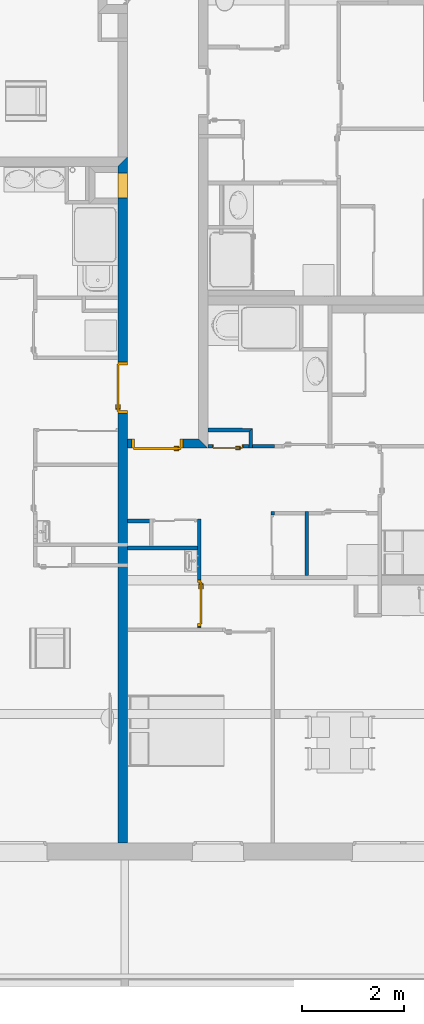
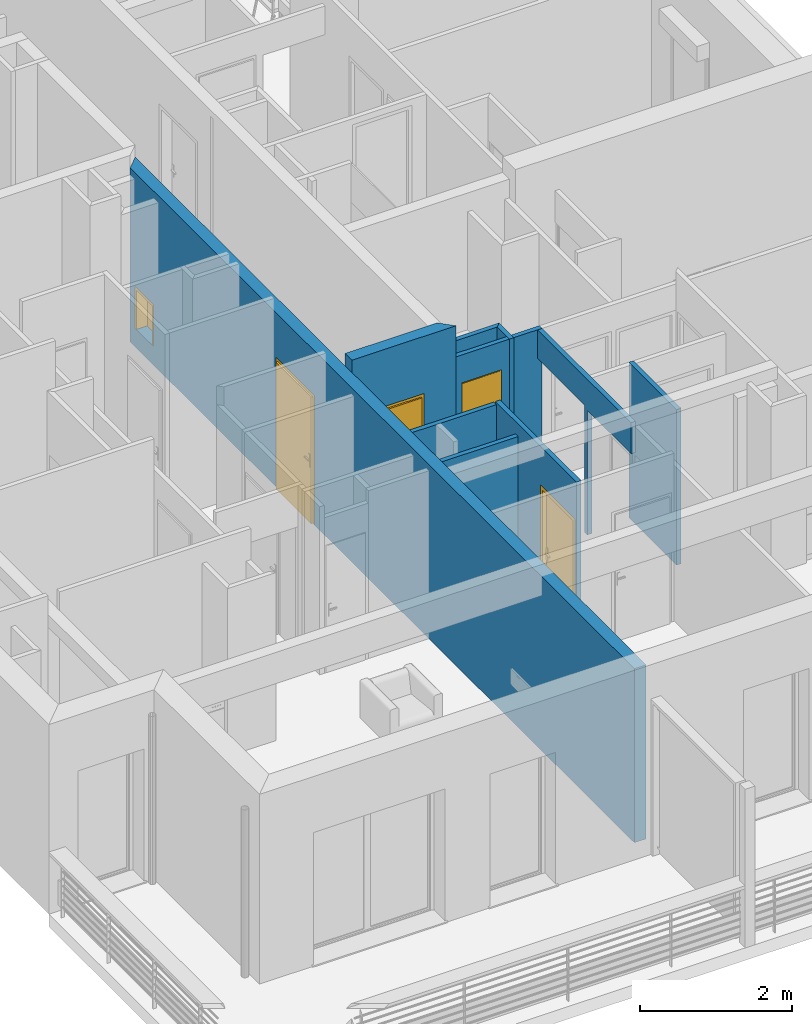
# One storey, part 13 of 165: 10 walls, 5 doors, 8 openings.
"""IFC2X3 building model written with IfcOpenShell, lengths in millimetres."""

from ifc_helpers import new_model, entity, si_unit, converted_unit, derived_unit, money_unit, direction, frame, origin_with_axes, origin_2d_with_axis, place, context, subcontext, project, spatial, polyline, rectangle, outline, extrude, faceted_brep, source, transform, mapped, material, layer, layer_set, layer_usage, type_object, element, fill, save


model = new_model("IFC2X3")

# Units and contexts
model_context = context("Model", 3, precision=0.01, world=origin_with_axes(), true_north=direction((0.0, 1.0)))
body_context = subcontext(model_context, "Body", "Model", "MODEL_VIEW")
ifc_project = project(units=[si_unit("LENGTHUNIT", "METRE", prefix="MILLI"), si_unit("AREAUNIT", "SQUARE_METRE"), si_unit("VOLUMEUNIT", "CUBIC_METRE"), converted_unit("PLANEANGLEUNIT", "DEGREE", entity("IfcPlaneAngleMeasure", 0.0174532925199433), si_unit("PLANEANGLEUNIT", "RADIAN"), dimensions=[0, 0, 0, 0, 0, 0, 0]), money_unit("USD"), converted_unit("TIMEUNIT", "Year", entity("IfcTimeMeasure", 31557600.0), si_unit("TIMEUNIT", "SECOND"), dimensions=[0, 0, 1, 0, 0, 0, 0]), si_unit("MASSUNIT", "GRAM", prefix="KILO"), si_unit("THERMODYNAMICTEMPERATUREUNIT", "DEGREE_CELSIUS"), si_unit("LUMINOUSINTENSITYUNIT", "LUMEN"), si_unit("ENERGYUNIT", "JOULE", prefix="MEGA"), derived_unit("THERMALCONDUCTANCEUNIT", [(si_unit("POWERUNIT", "WATT"), 1), (si_unit("LENGTHUNIT", "METRE"), -1), (si_unit("THERMODYNAMICTEMPERATUREUNIT", "KELVIN"), -1)]), derived_unit("SPECIFICHEATCAPACITYUNIT", [(si_unit("ENERGYUNIT", "JOULE"), 1), (si_unit("MASSUNIT", "GRAM", prefix="KILO"), -1), (si_unit("THERMODYNAMICTEMPERATUREUNIT", "KELVIN"), -1)]), derived_unit("MASSDENSITYUNIT", [(si_unit("MASSUNIT", "GRAM", prefix="KILO"), 1), (si_unit("VOLUMEUNIT", "CUBIC_METRE"), -1)])], contexts=[model_context])

# Site, building, storey
site_placement = place(None, origin_with_axes())
site = spatial("IfcSite", under=ifc_project, at=site_placement, Name="Site", CompositionType="ELEMENT")
building_placement = place(site_placement, origin_with_axes())
building = spatial("IfcBuilding", under=site, at=building_placement, Name="Bâtiment", CompositionType="ELEMENT")
storey_placement = place(building_placement, frame((0.0, 0.0, 8500.0), z_axis=(0.0, 0.0, 1.0), x_axis=(1.0, 0.0, 0.0)))
storey = spatial("IfcBuildingStorey", under=building, at=storey_placement, Name="Etage 2", CompositionType="ELEMENT", Elevation=8500.0)

# Wall, opening, door
ifc_material_1 = material(Name="Parpaing 314940890")
ifc_layer_1 = layer(ifc_material_1, 180.0, ventilated="UNKNOWN")
ifc_layer_set_1 = layer_set([ifc_layer_1], Name="Beton  18 0018356637")
ifc_layer_usage_1 = layer_usage(ifc_layer_set_1, "AXIS2", "NEGATIVE", 0.0)
wall_type_1 = type_object("IfcWallType", Name="Beton  18 0018356637 180", PredefinedType="NOTDEFINED")
wall_1_placement = place(storey_placement, frame((2224312.318363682, -649549.5926358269, 0.0), z_axis=(0.0, 0.0, 1.0), x_axis=(1.0, 0.0, 0.0)))
wall_1 = element("IfcWallStandardCase", 1, at=wall_1_placement, inside=storey, type_object=wall_type_1, material=ifc_layer_usage_1, Name="Mur-142", context=body_context, shape_type="SweptSolid", body=[
    extrude(outline(polyline([(-6.972868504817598e-06, -180.0000000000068), (1579.999993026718, -180.0000000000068), (1399.999993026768, 0.0), (-6.972868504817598e-06, 0.0), (-6.972868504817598e-06, -180.0000000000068)])), origin_with_axes(), (0.0, 0.0, 1.0), 3000.0),
])
opening_1_placement = place(wall_1_placement, frame((587.6093095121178, 0.0, 0.0), z_axis=(0.0, 0.0, 1.0), x_axis=(1.0, 0.0, 0.0)))
opening_1 = element("IfcOpeningElement", 2, at=opening_1_placement, cuts=wall_1, Name="Por-299", context=body_context, shape_type="SweptSolid", body=[
    extrude(rectangle(XDim=1010.00001192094, YDim=2080.0, at=origin_2d_with_axis()), frame((-5.960487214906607e-06, 180.0000000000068, 1039.999999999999), z_axis=(0.0, -1.0, 0.0), x_axis=(-1.0, 0.0, 0.0)), (0.0, 0.0, 1.0), 360.0),
])
door_style = type_object("IfcDoorStyle", Name="Porte_1v", ConstructionType="NOTDEFINED", OperationType="NOTDEFINED", ParameterTakesPrecedence=False, Sizeable=False)
shared_shape_1 = source(origin_with_axes(), body_context, "Body", "Brep", [
    faceted_brep([(504.9999999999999, 0.0, 0.0), (464.9999999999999, 0.0, 0.0), (464.9999999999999, 0.0, 2040.0), (-464.9999999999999, 0.0, 2040.0), (-464.9999999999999, 0.0, 0.0), (-504.9999999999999, 0.0, 0.0), (-504.9999999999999, 0.0, 2080.0), (504.9999999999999, 0.0, 2080.0), (504.9999999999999, -180.0, 0.0), (449.9999999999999, -180.0, 0.0), (449.9999999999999, -15.0, 0.0), (464.9999999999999, -15.0, 0.0), (464.9999999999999, -15.0, 2040.0), (-464.9999999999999, -15.0, 2040.0), (-464.9999999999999, -15.0, 0.0), (-449.9999999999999, -15.0, 0.0), (-449.9999999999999, -180.0, 0.0), (-504.9999999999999, -180.0, 0.0), (-504.9999999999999, -180.0, 2080.0), (504.9999999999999, -180.0, 2080.0), (-449.9999999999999, -180.0, 2025.0), (449.9999999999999, -180.0, 2025.0), (449.9999999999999, -15.0, 2025.0), (-449.9999999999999, -15.0, 2025.0)], [[[0, 1, 2, 3, 4, 5, 6, 7]], [[0, 8, 9, 10, 11, 1]], [[1, 11, 12, 2]], [[2, 12, 13, 3]], [[3, 13, 14, 4]], [[5, 4, 14, 15, 16, 17]], [[18, 6, 5, 17]], [[19, 7, 6, 18]], [[8, 0, 7, 19]], [[9, 8, 19, 18, 17, 16, 20, 21]], [[10, 9, 21, 22]], [[11, 10, 22, 23, 15, 14, 13, 12]], [[23, 20, 16, 15]], [[22, 21, 20, 23]]]),
    faceted_brep([(-399.9999999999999, -15.0, 900.0), (-439.9999999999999, -15.0, 900.0), (-439.9999999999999, -15.0, 1100.0), (-399.9999999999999, -15.0, 1100.0), (-399.9999999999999, -25.0, 900.0), (-439.9999999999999, -25.0, 900.0), (-439.9999999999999, -25.0, 1100.0), (-399.9999999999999, -25.0, 1100.0)], [[[0, 1, 2, 3]], [[1, 0, 4, 5]], [[2, 1, 5, 6]], [[3, 2, 6, 7]], [[0, 3, 7, 4]], [[5, 4, 7, 6]]]),
    faceted_brep([(-329.9999999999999, -25.0, 1000.0), (-429.9999999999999, -25.0, 1000.0), (-429.9999999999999, -25.0, 1020.0), (-329.9999999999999, -25.0, 1020.0), (-329.9999999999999, -44.99999999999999, 1000.0), (-429.9999999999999, -44.99999999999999, 1000.0), (-429.9999999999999, -44.99999999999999, 1020.0), (-329.9999999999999, -44.99999999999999, 1020.0)], [[[0, 1, 2, 3]], [[1, 0, 4, 5]], [[2, 1, 5, 6]], [[3, 2, 6, 7]], [[0, 3, 7, 4]], [[5, 4, 7, 6]]]),
    faceted_brep([(-399.9999999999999, 34.99999999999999, 900.0), (-439.9999999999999, 34.99999999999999, 900.0), (-439.9999999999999, 34.99999999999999, 1100.0), (-399.9999999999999, 34.99999999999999, 1100.0), (-399.9999999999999, 25.0, 900.0), (-439.9999999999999, 25.0, 900.0), (-439.9999999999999, 25.0, 1100.0), (-399.9999999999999, 25.0, 1100.0)], [[[0, 1, 2, 3]], [[1, 0, 4, 5]], [[2, 1, 5, 6]], [[3, 2, 6, 7]], [[0, 3, 7, 4]], [[5, 4, 7, 6]]]),
    faceted_brep([(-329.9999999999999, 55.0, 1000.0), (-429.9999999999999, 55.0, 1000.0), (-429.9999999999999, 55.0, 1020.0), (-329.9999999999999, 55.0, 1020.0), (-329.9999999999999, 34.99999999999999, 1000.0), (-429.9999999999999, 34.99999999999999, 1000.0), (-429.9999999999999, 34.99999999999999, 1020.0), (-329.9999999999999, 34.99999999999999, 1020.0)], [[[0, 1, 2, 3]], [[1, 0, 4, 5]], [[2, 1, 5, 6]], [[3, 2, 6, 7]], [[0, 3, 7, 4]], [[5, 4, 7, 6]]]),
    faceted_brep([(-464.9999999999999, 25.0, 0.0), (464.9999999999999, 25.0, 0.0), (464.9999999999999, -15.0, 0.0), (-464.9999999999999, -15.0, 0.0), (-464.9999999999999, 25.0, 2040.0), (464.9999999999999, 25.0, 2040.0), (464.9999999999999, -15.0, 2040.0), (-464.9999999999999, -15.0, 2040.0)], [[[0, 1, 2, 3]], [[0, 4, 5, 1]], [[1, 5, 6, 2]], [[3, 2, 6, 7]], [[4, 0, 3, 7]], [[5, 4, 7, 6]]]),
])
door_1_placement = place(opening_1_placement, frame((465.0000000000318, 0.0, 0.0), z_axis=(0.0, 0.0, 1.0), x_axis=(-1.0, 0.0, 0.0)))
door_1 = element("IfcDoor", 3, at=door_1_placement, inside=storey, type_object=door_style, Name="Por-299", OverallHeight=2040.0, OverallWidth=930.0, context=body_context, shape_type="MappedRepresentation", body=[
    mapped(shared_shape_1, transform((465.0000000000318, 180.0000000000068, 0.0))),
])
fill(opening_1, door_1)

# Wall, openings, doors
ifc_layer_usage_2 = layer_usage(ifc_layer_set_1, "AXIS2", "NEGATIVE", 0.0)
wall_2_placement = place(storey_placement, frame((2224312.31835671, -644016.3764063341, 0.0), z_axis=(0.0, 0.0, 1.0), x_axis=(0.0, -1.0, 0.0)))
wall_2 = element("IfcWallStandardCase", 4, at=wall_2_placement, inside=storey, type_object=wall_type_1, material=ifc_layer_usage_2, Name="Mur-143", context=body_context, shape_type="SweptSolid", body=[
    extrude(outline(polyline([(180.0000034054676, -179.99999999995), (13461.9466706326, -179.99999999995), (13461.9466706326, 0.0), (0.0, 0.0), (180.0000034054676, -179.99999999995)])), origin_with_axes(), (0.0, 0.0, 1.0), 2800.0),
])
opening_2_placement = place(wall_2_placement, frame((4527.152454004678, -1.13686837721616e-10, 0.0), z_axis=(0.0, 0.0, 1.0), x_axis=(1.0, 0.0, 0.0)))
opening_2 = element("IfcOpeningElement", 5, at=opening_2_placement, cuts=wall_2, Name="Por-299", context=body_context, shape_type="SweptSolid", body=[
    extrude(rectangle(XDim=1010.00001192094, YDim=2080.0, at=origin_2d_with_axis()), frame((-5.960473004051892e-06, 179.99999999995, 1039.999999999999), z_axis=(0.0, -1.0, 0.0), x_axis=(-1.0, 0.0, 0.0)), (0.0, 0.0, 1.0), 360.0),
])
opening_3_placement = place(wall_2_placement, frame((553.9436931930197, -1.13686837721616e-10, 300.0000000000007), z_axis=(0.0, 0.0, 1.0), x_axis=(1.0, 0.0, 0.0)))
opening_3 = element("IfcOpeningElement", 6, at=opening_3_placement, cuts=wall_2, Name="Por-232", context=body_context, shape_type="SweptSolid", body=[
    extrude(rectangle(XDim=489.9999985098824, YDim=669.9999999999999, at=origin_2d_with_axis()), frame((-7.450609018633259e-07, -179.99999999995, 335.0000000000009), z_axis=(0.0, 1.0, 0.0), x_axis=(1.0, 0.0, 0.0)), (0.0, 0.0, 1.0), 360.0),
])
door_2_placement = place(opening_2_placement, frame((465.000000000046, -1.13686837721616e-10, 0.0), z_axis=(0.0, 0.0, 1.0), x_axis=(-1.0, 0.0, 0.0)))
door_2 = element("IfcDoor", 7, at=door_2_placement, inside=storey, type_object=door_style, Name="Por-299", OverallHeight=2040.0, OverallWidth=930.0, context=body_context, shape_type="MappedRepresentation", body=[
    mapped(shared_shape_1, transform((465.0000000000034, 179.99999999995, 0.0))),
])
fill(opening_2, door_2)
shared_shape_2 = source(origin_with_axes(), body_context, "Body", "Brep", [
    faceted_brep([(245.0, 0.0, 0.0), (225.0, 0.0, 0.0), (225.0, 0.0, 650.0), (-225.0, 0.0, 650.0), (-225.0, 0.0, 0.0), (-245.0, 0.0, 0.0), (-245.0, 0.0, 670.0), (245.0, 0.0, 670.0), (245.0, -180.0, 0.0), (210.0, -180.0, 0.0), (210.0, -15.0, 0.0), (225.0, -15.0, 0.0), (225.0, -15.0, 650.0), (-225.0, -15.0, 650.0), (-225.0, -15.0, 0.0), (-210.0, -15.0, 0.0), (-210.0, -180.0, 0.0), (-245.0, -180.0, 0.0), (-245.0, -180.0, 670.0), (245.0, -180.0, 670.0), (-210.0, -180.0, 635.0), (210.0, -180.0, 635.0), (210.0, -15.0, 635.0), (-210.0, -15.0, 635.0)], [[[0, 1, 2, 3, 4, 5, 6, 7]], [[0, 8, 9, 10, 11, 1]], [[1, 11, 12, 2]], [[2, 12, 13, 3]], [[3, 13, 14, 4]], [[5, 4, 14, 15, 16, 17]], [[18, 6, 5, 17]], [[19, 7, 6, 18]], [[8, 0, 7, 19]], [[9, 8, 19, 18, 17, 16, 20, 21]], [[10, 9, 21, 22]], [[11, 10, 22, 23, 15, 14, 13, 12]], [[23, 20, 16, 15]], [[22, 21, 20, 23]]]),
    faceted_brep([(-225.0, 5.000000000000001, 0.0), (225.0, 5.000000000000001, 0.0), (225.0, -15.0, 0.0), (-225.0, -15.0, 0.0), (-225.0, 5.000000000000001, 650.0), (225.0, 5.000000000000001, 650.0), (225.0, -15.0, 650.0), (-225.0, -15.0, 650.0)], [[[0, 1, 2, 3]], [[0, 4, 5, 1]], [[1, 5, 6, 2]], [[3, 2, 6, 7]], [[4, 0, 3, 7]], [[5, 4, 7, 6]]]),
])
door_3_placement = place(opening_3_placement, frame((-224.9999999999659, -1.13686837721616e-10, 0.0), z_axis=(0.0, 0.0, 1.0), x_axis=(1.0, 0.0, 0.0)))
door_3 = element("IfcDoor", 8, at=door_3_placement, inside=storey, type_object=door_style, Name="Por-232", OverallHeight=650.0, OverallWidth=450.0, context=body_context, shape_type="MappedRepresentation", body=[
    mapped(shared_shape_2, transform((224.9999999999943, 0.0, 0.0))),
])
fill(opening_3, door_3)

# Walls
ifc_material_2 = material(Name="Hachure solide 268963992")
ifc_layer_2 = layer(ifc_material_2, 70.0, ventilated="UNKNOWN")
ifc_layer_set_2 = layer_set([ifc_layer_2], Name="Cloison 70 0826278243")
ifc_layer_usage_3 = layer_usage(ifc_layer_set_2, "AXIS2", "POSITIVE", -70.0)
wall_type_2 = type_object("IfcWallType", Name="Cloison 70 0826278243 70", PredefinedType="NOTDEFINED")
wall_3_placement = place(storey_placement, frame((2226774.70320047, -649338.8810564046, 0.0), z_axis=(0.0, 0.0, 1.0), x_axis=(-0.0006471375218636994, -0.999999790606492, 0.0)))
element("IfcWallStandardCase", 9, at=wall_3_placement, inside=storey, type_object=wall_type_2, material=ifc_layer_usage_3, Name="Mur-149", context=body_context, shape_type="SweptSolid", body=[
    extrude(outline(polyline([(70.00000436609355, -70.00000000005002), (391.2824669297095, -69.99999999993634), (391.2824669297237, 0.0), (0.0, 0.0), (70.00000436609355, -70.00000000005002)])), origin_with_axes(), (0.0, 0.0, 1.0), 2500.0),
])
ifc_layer_usage_4 = layer_usage(ifc_layer_set_2, "AXIS2", "NEGATIVE", 70.0)
wall_4_placement = place(storey_placement, frame((2224312.31835671, -651724.6231453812, 0.0), z_axis=(0.0, 0.0, 1.0), x_axis=(1.0, 0.0, 0.0)))
element("IfcWallStandardCase", 10, at=wall_4_placement, inside=storey, type_object=wall_type_2, material=ifc_layer_usage_4, Name="Mur-149", context=body_context, shape_type="SweptSolid", body=[
    extrude(outline(polyline([(0.0, 0.0), (1374.504614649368, 0.0), (1374.504614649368, 69.99999999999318), (0.0, 69.99999999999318), (0.0, 0.0)])), origin_with_axes(), (0.0, 0.0, 1.0), 2500.0),
])
ifc_layer_usage_5 = layer_usage(ifc_layer_set_2, "AXIS2", "POSITIVE", -70.0)
wall_5_placement = place(storey_placement, frame((2225892.31835671, -649338.3100869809, 0.0), z_axis=(0.0, 0.0, 1.0), x_axis=(0.999999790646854, -0.0006470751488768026, 0.0)))
element("IfcWallStandardCase", 11, at=wall_5_placement, inside=storey, type_object=wall_type_2, material=ifc_layer_usage_5, Name="Mur-149", context=body_context, shape_type="SweptSolid", body=[
    extrude(outline(polyline([(1.13686837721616e-10, -69.99999999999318), (812.3850241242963, -69.99999999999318), (882.3850284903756, 0.0), (0.0, 0.0), (1.13686837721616e-10, -69.99999999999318)])), origin_with_axes(), (0.0, 0.0, 1.0), 2500.0),
])

# Wall, opening, door
ifc_layer_usage_6 = layer_usage(ifc_layer_set_2, "AXIS2", "NEGATIVE", 70.0)
wall_6_placement = place(storey_placement, frame((2225892.318356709, -649729.592635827, 0.0), z_axis=(0.0, 0.0, 1.0), x_axis=(1.0, 0.0, 0.0)))
wall_6 = element("IfcWallStandardCase", 12, at=wall_6_placement, inside=storey, type_object=wall_type_2, material=ifc_layer_usage_6, Name="Mur-149", context=body_context, shape_type="SweptSolid", body=[
    extrude(outline(polyline([(0.0, 0.0), (1310.012145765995, 0.0), (1310.012145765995, 69.99999999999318), (0.0, 69.99999999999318), (0.0, 0.0)])), origin_with_axes(), (0.0, 0.0, 1.0), 2500.0),
])
opening_4_placement = place(wall_6_placement, frame((389.9479966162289, 0.0, 0.0), z_axis=(0.0, 0.0, 1.0), x_axis=(1.0, 0.0, 0.0)))
opening_4 = element("IfcOpeningElement", 13, at=opening_4_placement, cuts=wall_6, Name="Por-274", context=body_context, shape_type="SweptSolid", body=[
    extrude(rectangle(XDim=600.0000000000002, YDim=2050.000000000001, at=origin_2d_with_axis()), frame((0.0, 69.99999999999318, 1025.0), z_axis=(0.0, -1.0, 0.0), x_axis=(-1.0, 0.0, 0.0)), (0.0, 0.0, 1.0), 140.0),
])
shared_shape_3 = source(origin_with_axes(), body_context, "Body", "Brep", [
    faceted_brep([(300.0, 0.0, 0.0), (290.0, 0.0, 0.0), (290.0, 0.0, 2040.0), (-290.0, 0.0, 2040.0), (-290.0, 0.0, 0.0), (-300.0, 0.0, 0.0), (-300.0, 0.0, 2050.0), (300.0, 0.0, 2050.0), (300.0, -70.0, 0.0), (279.9999999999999, -70.0, 0.0), (279.9999999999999, -15.0, 0.0), (290.0, -15.0, 0.0), (290.0, -15.0, 2040.0), (-290.0, -15.0, 2040.0), (-290.0, -15.0, 0.0), (-279.9999999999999, -15.0, 0.0), (-279.9999999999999, -70.0, 0.0), (-300.0, -70.0, 0.0), (-300.0, -70.0, 2050.0), (300.0, -70.0, 2050.0), (-279.9999999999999, -70.0, 2030.0), (279.9999999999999, -70.0, 2030.0), (279.9999999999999, -15.0, 2030.0), (-279.9999999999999, -15.0, 2030.0)], [[[0, 1, 2, 3, 4, 5, 6, 7]], [[0, 8, 9, 10, 11, 1]], [[1, 11, 12, 2]], [[2, 12, 13, 3]], [[3, 13, 14, 4]], [[5, 4, 14, 15, 16, 17]], [[18, 6, 5, 17]], [[19, 7, 6, 18]], [[8, 0, 7, 19]], [[9, 8, 19, 18, 17, 16, 20, 21]], [[10, 9, 21, 22]], [[11, 10, 22, 23, 15, 14, 13, 12]], [[23, 20, 16, 15]], [[22, 21, 20, 23]]]),
    faceted_brep([(-224.9999999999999, -15.0, 900.0), (-264.9999999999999, -15.0, 900.0), (-264.9999999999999, -15.0, 1100.0), (-224.9999999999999, -15.0, 1100.0), (-224.9999999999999, -25.0, 900.0), (-264.9999999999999, -25.0, 900.0), (-264.9999999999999, -25.0, 1100.0), (-224.9999999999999, -25.0, 1100.0)], [[[0, 1, 2, 3]], [[1, 0, 4, 5]], [[2, 1, 5, 6]], [[3, 2, 6, 7]], [[0, 3, 7, 4]], [[5, 4, 7, 6]]]),
    faceted_brep([(-154.9999999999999, -25.0, 1000.0), (-254.9999999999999, -25.0, 1000.0), (-254.9999999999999, -25.0, 1020.0), (-154.9999999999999, -25.0, 1020.0), (-154.9999999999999, -45.0, 1000.0), (-254.9999999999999, -45.0, 1000.0), (-254.9999999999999, -45.0, 1020.0), (-154.9999999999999, -45.0, 1020.0)], [[[0, 1, 2, 3]], [[1, 0, 4, 5]], [[2, 1, 5, 6]], [[3, 2, 6, 7]], [[0, 3, 7, 4]], [[5, 4, 7, 6]]]),
    faceted_brep([(-224.9999999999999, 15.0, 900.0), (-264.9999999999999, 15.0, 900.0), (-264.9999999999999, 15.0, 1100.0), (-224.9999999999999, 15.0, 1100.0), (-224.9999999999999, 5.000000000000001, 900.0), (-264.9999999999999, 5.000000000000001, 900.0), (-264.9999999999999, 5.000000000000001, 1100.0), (-224.9999999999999, 5.000000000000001, 1100.0)], [[[0, 1, 2, 3]], [[1, 0, 4, 5]], [[2, 1, 5, 6]], [[3, 2, 6, 7]], [[0, 3, 7, 4]], [[5, 4, 7, 6]]]),
    faceted_brep([(-154.9999999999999, 35.0, 1000.0), (-254.9999999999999, 35.0, 1000.0), (-254.9999999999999, 35.0, 1020.0), (-154.9999999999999, 35.0, 1020.0), (-154.9999999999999, 15.0, 1000.0), (-254.9999999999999, 15.0, 1000.0), (-254.9999999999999, 15.0, 1020.0), (-154.9999999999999, 15.0, 1020.0)], [[[0, 1, 2, 3]], [[1, 0, 4, 5]], [[2, 1, 5, 6]], [[3, 2, 6, 7]], [[0, 3, 7, 4]], [[5, 4, 7, 6]]]),
    faceted_brep([(-290.0, 5.000000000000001, 0.0), (290.0, 5.000000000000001, 0.0), (290.0, -15.0, 0.0), (-290.0, -15.0, 0.0), (-290.0, 5.000000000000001, 2040.0), (290.0, 5.000000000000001, 2040.0), (290.0, -15.0, 2040.0), (-290.0, -15.0, 2040.0)], [[[0, 1, 2, 3]], [[0, 4, 5, 1]], [[1, 5, 6, 2]], [[3, 2, 6, 7]], [[4, 0, 3, 7]], [[5, 4, 7, 6]]]),
])
door_4_placement = place(opening_4_placement, frame((289.9999999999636, 0.0, 0.0), z_axis=(0.0, 0.0, 1.0), x_axis=(-1.0, 0.0, 0.0)))
door_4 = element("IfcDoor", 14, at=door_4_placement, inside=storey, type_object=door_style, Name="Por-274", OverallHeight=2040.0, OverallWidth=580.0, context=body_context, shape_type="MappedRepresentation", body=[
    mapped(shared_shape_3, transform((289.9999999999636, 0.0, 0.0))),
])
fill(opening_4, door_4)

# Wall, opening
ifc_layer_usage_7 = layer_usage(ifc_layer_set_2, "AXIS2", "NEGATIVE", 70.0)
wall_7_placement = place(storey_placement, frame((2224312.31835671, -651194.9462380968, 0.0), z_axis=(0.0, 0.0, 1.0), x_axis=(1.0, 0.0, 0.0)))
wall_7 = element("IfcWallStandardCase", 15, at=wall_7_placement, inside=storey, type_object=wall_type_2, material=ifc_layer_usage_7, Name="Mur-149", context=body_context, shape_type="SweptSolid", body=[
    extrude(outline(polyline([(0.0, 0.0), (1348.360150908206, 0.0), (1348.360150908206, 69.99999999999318), (0.0, 69.99999999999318), (0.0, 0.0)])), origin_with_axes(), (0.0, 0.0, 1.0), 2700.0),
])
opening_5_placement = place(wall_7_placement, frame((931.137263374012, 0.0, 0.0), z_axis=(0.0, 0.0, 1.0), x_axis=(1.0, 0.0, 0.0)))
element("IfcOpeningElement", 16, at=opening_5_placement, cuts=wall_7, Name="Por-321", context=body_context, shape_type="SweptSolid", body=[
    extrude(rectangle(XDim=857.12848430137, YDim=2000.0, at=origin_2d_with_axis()), frame((0.0, 69.99999999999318, 1000.0), z_axis=(0.0, -1.0, 0.0), x_axis=(1.0, 0.0, 0.0)), (0.0, 0.0, -1.0), 70.0),
    extrude(rectangle(XDim=857.12848430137, YDim=2000.0, at=origin_2d_with_axis()), frame((0.0, 69.99999999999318, 1000.0), z_axis=(0.0, 1.0, 0.0), x_axis=(1.0, 0.0, 0.0)), (0.0, 0.0, -1.0), 70.0),
])

# Wall
ifc_layer_usage_8 = layer_usage(ifc_layer_set_2, "AXIS2", "NEGATIVE", 70.0)
wall_8_placement = place(storey_placement, frame((2227802.330502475, -650974.9462380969, 0.0), z_axis=(0.0, 0.0, 1.0), x_axis=(0.0, -1.0, 0.0)))
element("IfcWallStandardCase", 17, at=wall_8_placement, inside=storey, type_object=wall_type_2, material=ifc_layer_usage_8, Name="Mur-149", context=body_context, shape_type="SweptSolid", body=[
    extrude(outline(polyline([(0.0, 0.0), (1258.358809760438, 0.0), (1258.358809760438, 70.00000000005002), (0.0, 70.00000000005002), (0.0, 0.0)])), origin_with_axes(), (0.0, 0.0, 1.0), 2500.0),
])

# Wall, openings
ifc_layer_usage_9 = layer_usage(ifc_layer_set_2, "AXIS2", "NEGATIVE", 70.0)
wall_9_placement = place(storey_placement, frame((2227132.330502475, -649729.592635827, 0.0), z_axis=(0.0, 0.0, 1.0), x_axis=(0.0, -1.0, 0.0)))
wall_9 = element("IfcWallStandardCase", 18, at=wall_9_placement, inside=storey, type_object=wall_type_2, material=ifc_layer_usage_9, Name="Mur-149", context=body_context, shape_type="SweptSolid", body=[
    extrude(outline(polyline([(0.0, 0.0), (2463.712412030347, 0.0), (2463.712412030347, 70.00000000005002), (0.0, 70.00000000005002), (0.0, 0.0)])), origin_with_axes(), (0.0, 0.0, 1.0), 2500.0),
])
opening_6_placement = place(wall_9_placement, frame((622.6768011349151, 1.13686837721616e-10, 0.0), z_axis=(0.0, 0.0, 1.0), x_axis=(1.0, 0.0, 0.0)))
element("IfcOpeningElement", 19, at=opening_6_placement, cuts=wall_9, Name="Por-283", context=body_context, shape_type="SweptSolid", body=[
    extrude(rectangle(XDim=1245.353602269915, YDim=2039.999999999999, at=origin_2d_with_axis()), frame((0.0, 70.00000000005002, 1020.0), z_axis=(0.0, -1.0, 0.0), x_axis=(1.0, 0.0, 0.0)), (0.0, 0.0, -1.0), 70.0),
    extrude(rectangle(XDim=1245.353602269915, YDim=2039.999999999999, at=origin_2d_with_axis()), frame((0.0, 70.00000000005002, 1020.0), z_axis=(0.0, 1.0, 0.0), x_axis=(1.0, 0.0, 0.0)), (0.0, 0.0, -1.0), 70.0),
])
opening_7_placement = place(wall_9_placement, frame((1909.533007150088, 1.13686837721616e-10, 0.0), z_axis=(0.0, 0.0, 1.0), x_axis=(1.0, 0.0, 0.0)))
element("IfcOpeningElement", 20, at=opening_7_placement, cuts=wall_9, Name="Por-321", context=body_context, shape_type="SweptSolid", body=[
    extrude(rectangle(XDim=1188.358809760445, YDim=2000.0, at=origin_2d_with_axis()), frame((0.0, 0.0, 1000.0), z_axis=(0.0, 1.0, 0.0), x_axis=(1.0, 0.0, 0.0)), (0.0, 0.0, -1.0), 70.0),
    extrude(rectangle(XDim=1188.358809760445, YDim=2000.0, at=origin_2d_with_axis()), frame((0.0, 0.0, 1000.0), z_axis=(0.0, -1.0, 0.0), x_axis=(1.0, 0.0, 0.0)), (0.0, 0.0, -1.0), 70.0),
])

# Wall, opening, door
ifc_layer_usage_10 = layer_usage(ifc_layer_set_2, "AXIS2", "POSITIVE", -70.0)
wall_10_placement = place(storey_placement, frame((2225686.822971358, -653330.4707198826, 0.0), z_axis=(0.0, 0.0, 1.0), x_axis=(0.0, 1.0, 0.0)))
wall_10 = element("IfcWallStandardCase", 21, at=wall_10_placement, inside=storey, type_object=wall_type_2, material=ifc_layer_usage_10, Name="Mur-149", context=body_context, shape_type="SweptSolid", body=[
    extrude(outline(polyline([(69.99999999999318, -70.00000000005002), (2205.524481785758, -70.00000000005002), (2205.524481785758, 0.0), (69.99999999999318, 0.0), (69.99999999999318, -70.00000000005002)])), origin_with_axes(), (0.0, 0.0, 1.0), 2700.0),
])
opening_8_placement = place(wall_10_placement, frame((559.5764867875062, -1.13686837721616e-10, 0.0), z_axis=(0.0, 0.0, 1.0), x_axis=(1.0, 0.0, 0.0)))
opening_8 = element("IfcOpeningElement", 22, at=opening_8_placement, cuts=wall_10, Name="Por-280", context=body_context, shape_type="SweptSolid", body=[
    extrude(rectangle(XDim=910.0, YDim=2080.0, at=origin_2d_with_axis()), frame((0.0, 70.00000000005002, 1039.999999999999), z_axis=(0.0, -1.0, 0.0), x_axis=(-1.0, 0.0, 0.0)), (0.0, 0.0, 1.0), 140.0),
])
shared_shape_4 = source(origin_with_axes(), body_context, "Body", "Brep", [
    faceted_brep([(455.0, 0.0, 0.0), (415.0000000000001, 0.0, 0.0), (415.0000000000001, 0.0, 2040.0), (-415.0000000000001, 0.0, 2040.0), (-415.0000000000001, 0.0, 0.0), (-455.0, 0.0, 0.0), (-455.0, 0.0, 2080.0), (455.0, 0.0, 2080.0), (455.0, -70.0, 0.0), (400.0, -70.0, 0.0), (400.0, -15.0, 0.0), (415.0000000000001, -15.0, 0.0), (415.0000000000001, -15.0, 2040.0), (-415.0000000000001, -15.0, 2040.0), (-415.0000000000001, -15.0, 0.0), (-400.0, -15.0, 0.0), (-400.0, -70.0, 0.0), (-455.0, -70.0, 0.0), (-455.0, -70.0, 2080.0), (455.0, -70.0, 2080.0), (-400.0, -70.0, 2025.0), (400.0, -70.0, 2025.0), (400.0, -15.0, 2025.0), (-400.0, -15.0, 2025.0)], [[[0, 1, 2, 3, 4, 5, 6, 7]], [[0, 8, 9, 10, 11, 1]], [[1, 11, 12, 2]], [[2, 12, 13, 3]], [[3, 13, 14, 4]], [[5, 4, 14, 15, 16, 17]], [[18, 6, 5, 17]], [[19, 7, 6, 18]], [[8, 0, 7, 19]], [[9, 8, 19, 18, 17, 16, 20, 21]], [[10, 9, 21, 22]], [[11, 10, 22, 23, 15, 14, 13, 12]], [[23, 20, 16, 15]], [[22, 21, 20, 23]]]),
    faceted_brep([(-350.0000000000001, -15.0, 900.0), (-390.0, -15.0, 900.0), (-390.0, -15.0, 1100.0), (-350.0000000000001, -15.0, 1100.0), (-350.0000000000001, -25.0, 900.0), (-390.0, -25.0, 900.0), (-390.0, -25.0, 1100.0), (-350.0000000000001, -25.0, 1100.0)], [[[0, 1, 2, 3]], [[1, 0, 4, 5]], [[2, 1, 5, 6]], [[3, 2, 6, 7]], [[0, 3, 7, 4]], [[5, 4, 7, 6]]]),
    faceted_brep([(-280.0, -25.0, 1000.0), (-380.0, -25.0, 1000.0), (-380.0, -25.0, 1020.0), (-280.0, -25.0, 1020.0), (-280.0, -45.0, 1000.0), (-380.0, -45.0, 1000.0), (-380.0, -45.0, 1020.0), (-280.0, -45.0, 1020.0)], [[[0, 1, 2, 3]], [[1, 0, 4, 5]], [[2, 1, 5, 6]], [[3, 2, 6, 7]], [[0, 3, 7, 4]], [[5, 4, 7, 6]]]),
    faceted_brep([(-350.0000000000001, 35.0, 900.0), (-390.0, 35.0, 900.0), (-390.0, 35.0, 1100.0), (-350.0000000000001, 35.0, 1100.0), (-350.0000000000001, 25.0, 900.0), (-390.0, 25.0, 900.0), (-390.0, 25.0, 1100.0), (-350.0000000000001, 25.0, 1100.0)], [[[0, 1, 2, 3]], [[1, 0, 4, 5]], [[2, 1, 5, 6]], [[3, 2, 6, 7]], [[0, 3, 7, 4]], [[5, 4, 7, 6]]]),
    faceted_brep([(-280.0, 55.00000000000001, 1000.0), (-380.0, 55.00000000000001, 1000.0), (-380.0, 55.00000000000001, 1020.0), (-280.0, 55.00000000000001, 1020.0), (-280.0, 35.0, 1000.0), (-380.0, 35.0, 1000.0), (-380.0, 35.0, 1020.0), (-280.0, 35.0, 1020.0)], [[[0, 1, 2, 3]], [[1, 0, 4, 5]], [[2, 1, 5, 6]], [[3, 2, 6, 7]], [[0, 3, 7, 4]], [[5, 4, 7, 6]]]),
    faceted_brep([(-415.0000000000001, 25.0, 0.0), (415.0000000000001, 25.0, 0.0), (415.0000000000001, -15.0, 0.0), (-415.0000000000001, -15.0, 0.0), (-415.0000000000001, 25.0, 2040.0), (415.0000000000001, 25.0, 2040.0), (415.0000000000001, -15.0, 2040.0), (-415.0000000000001, -15.0, 2040.0)], [[[0, 1, 2, 3]], [[0, 4, 5, 1]], [[1, 5, 6, 2]], [[3, 2, 6, 7]], [[4, 0, 3, 7]], [[5, 4, 7, 6]]]),
])
door_5_placement = place(opening_8_placement, frame((415.0000000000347, -1.13686837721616e-10, 0.0), z_axis=(0.0, 0.0, 1.0), x_axis=(-1.0, 0.0, 0.0)))
door_5 = element("IfcDoor", 23, at=door_5_placement, inside=storey, type_object=door_style, Name="Por-280", OverallHeight=2040.0, OverallWidth=830.0, context=body_context, shape_type="MappedRepresentation", body=[
    mapped(shared_shape_4, transform((415.0000000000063, 70.00000000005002, 0.0))),
])
fill(opening_8, door_5)

save(model, "model.ifc")
